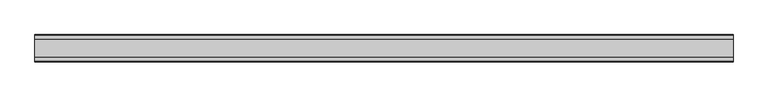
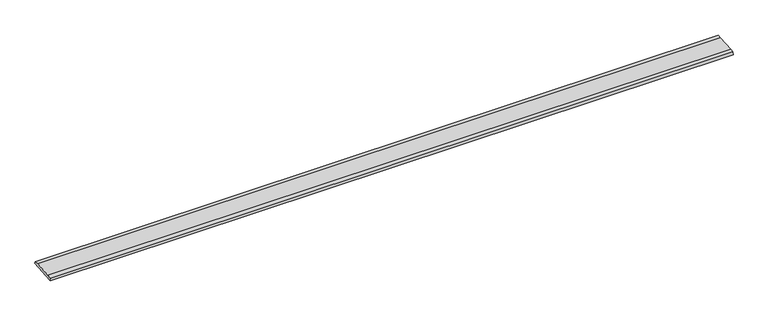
"""IFC4 building model written with IfcOpenShell, lengths in millimetres: proxy geometry, Muestra 6.32m I25 Anti-Slip : Muestra 6.32m I25 Anti-Slip."""

from ifc_helpers import new_model, si_unit, point, frame, frame_2d, origin, place, context, project, spatial, polyline, circle_curve, trimmed, segment, composite_curve, outline, extrude, source, transform, mapped, element, save


def generic_models_17735d4e(model_context):
    return source(origin(), model_context, "Body", "SweptSolid", [
        extrude(outline(composite_curve([segment(polyline([(19431.3622782, 0.0), (19436.4076529, 22.4542301)]), True, "CONTINUOUS"), segment(trimmed(circle_curve(frame_2d((19573.7620881, -685.9083245)), 721.556477), [point((19436.4076529, 22.4542301))], [point((19471.927946, 28.4260209))], False, "CARTESIAN"), True, "CONTINUOUS"), segment(polyline([(19471.927946, 28.4260209), (19635.2944764, 41.7232967)]), True, "CONTINUOUS"), segment(trimmed(circle_curve(frame_2d((19650.3224292, -679.6766688)), 721.556477), [point((19635.2944764, 41.7232967))], [point((19670.8626909, 41.5873932))], False, "CARTESIAN"), True, "CONTINUOUS"), segment(polyline([(19670.8626909, 41.5873932), (19679.5032057, 20.1975174), (19431.3622782, 0.0)]), True, "CONTINUOUS")], self_intersect=False)), frame((46810.223997, 0.0, 0.0), z_axis=(1.0, 0.0, 0.0), x_axis=(0.0, 1.0, 0.0)), (0.0, 0.0, 1.0), 6320.0),
    ])


if __name__ == "__main__":
    model = new_model("IFC4")
    model_context = context("Model", 3, world=origin())
    ifc_project = project(units=[si_unit("LENGTHUNIT", "METRE", prefix="MILLI")], contexts=[model_context])
    site = spatial("IfcSite", under=ifc_project)
    building = spatial("IfcBuilding", under=site)
    placement = place(None, origin())
    generic_models_shape = generic_models_17735d4e(model_context)
    element("IfcBuildingElementProxy", 1, Name="Muestra 6.32m I25 Anti-Slip : Muestra 6.32m I25 Anti-Slip", ObjectType="Muestra 6.32m I25 Anti-Slip : Muestra 6.32m I25 Anti-Slip", at=placement, inside=building, context=model_context, shape_type="MappedRepresentation", body=[
        mapped(generic_models_shape, transform((0.0, 0.0, 0.0), x_axis=(1.0, 0.0, 0.0), y_axis=(0.0, 1.0, 0.0), z_axis=(0.0, 0.0, 1.0))),
    ])
    save(model, "model.ifc")
